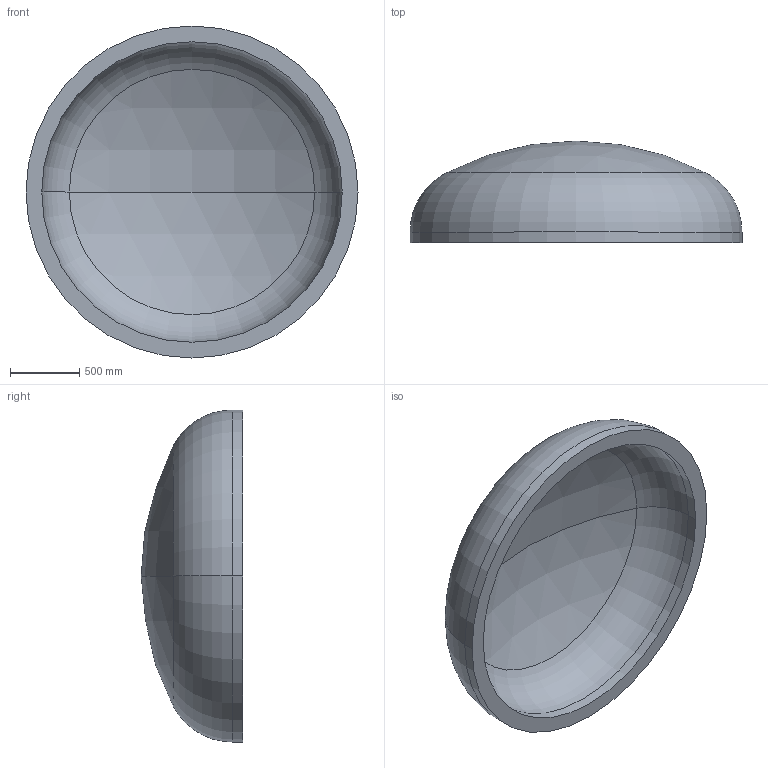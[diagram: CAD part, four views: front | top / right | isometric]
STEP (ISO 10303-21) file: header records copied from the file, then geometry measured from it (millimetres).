
FILE_DESCRIPTION (( 'STEP AP203' ), '1' );
FILE_NAME ('DIN 28013 Korbbogenform_-_Boden DIN 28013 - 2400 x 75 - I - s=114.step', '2016-07-01T15:46:07', ( '' ), ( '' ), 'SwSTEP 2.0', 'SolidWorks 2013', '' );
FILE_SCHEMA (( 'CONFIG_CONTROL_DESIGN' ));
Length unit declared in the file: millimetre
Products named in the file (1): DIN 28013 Korbbogenform_-_Boden DIN 28013 - 2400 x 75 - I - s=114
Bounding box: 2400 x 734.28 x 2400 mm (x, y, z)
Volume: 733443063.7 mm3; surface area: 13713348.8 mm2
Topology: 1 solids, 1 shells, 13 faces, 24 edges, 14 vertices
Faces by surface type: torus 4, cylinder 4, sphere 4, plane 1
Entity records: 407 total; most frequent: DIRECTION 72, CARTESIAN_POINT 52, ORIENTED_EDGE 48, AXIS2_PLACEMENT_3D 34, EDGE_CURVE 24, CIRCLE 20, EDGE_LOOP 14, VERTEX_POINT 14
